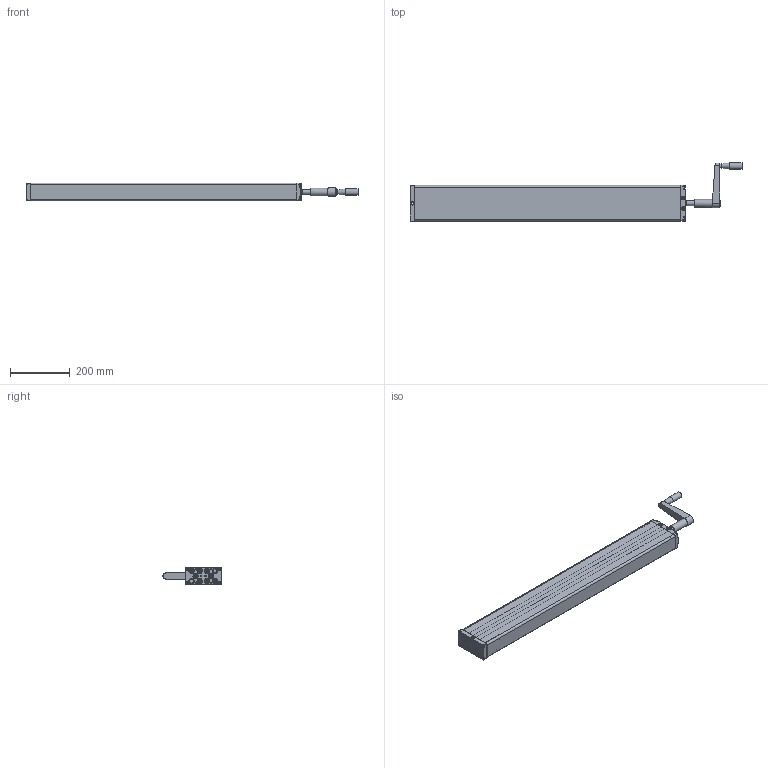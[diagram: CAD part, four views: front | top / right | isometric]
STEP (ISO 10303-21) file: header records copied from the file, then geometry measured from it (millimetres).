
FILE_DESCRIPTION(/* description */ ('Unknown'),/* implementation_level */ '2;1');
FILE_NAME(/* name */ '312.20195 Pumpe PB 8440 W mit Handkurbel',/* time_stamp */ '2016-11-24T17:01:02+01:00',/* author */ ('Unknown'),/* organization */ ('Unknown'),/* preprocessor_version */ 'ST-DEVELOPER v16.7',/* originating_system */ 'DEX',/* authorisation */ $);
FILE_SCHEMA (('AUTOMOTIVE_DESIGN {1 0 10303 214 3 1 1}'));
Products named in the file (22): 102.00195; 115.10027; 125.00031; 115.00007; 142.00021; 125.00021; 113.00005; 128.00001; 125.00052; 126.00013; 125.00053; 127.00014; Handgriff; 142.00013; 125.00147; 115.00140; 126.00006; 122.00040; 119.00047; 126.00036; 142.00057; 142.00017
Assembly tree (36 placements, depth 3):
  102.00195
    115.10027  x8
      125.00031
      115.00007
      142.00021
      125.00021
    113.00005
      128.00001
      125.00052
      126.00013
      125.00053
      127.00014
      Handgriff
    142.00013  x8
    125.00147
    115.00140
      126.00006
      122.00040
    119.00047
    126.00036
    142.00057
    142.00017  x2
Bounding box: 1113.75 x 195.5 x 60.3 mm (x, y, z)
Volume: 1232956.2 mm3; surface area: 814820.2 mm2
Topology: 46 solids, 46 shells, 2177 faces, 4972 edges, 2915 vertices
Faces by surface type: plane 775, cylinder 502, bspline 380, cone 360, torus 102, sphere 58
Full cylindrical faces by diameter (mm): 3.5 x8, 4 x2, 4.1 x8, 4.134 x4, 4.2 x9, 4.917 x4, 5 x8, 5.8 x4, 6 x2, 6.8 x1, 6.917 x16, 8 x18, 9 x8, 9.8 x8, 10 x6, 10.4 x1, 10.5 x4, 12.5 x8, 12.8 x1, 13 x27, 13.9 x16, 14 x1, 16 x2, 17 x1, 18 x11, 19 x1, 20.6 x1, 21 x1, 22 x1, 25.5 x1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
Entity records: 63563 total; most frequent: CARTESIAN_POINT 30444, ORIENTED_EDGE 5318, DIRECTION 4749, EDGE_CURVE 2659, AXIS2_PLACEMENT_3D 1850, VERTEX_POINT 1690, FACE_BOUND 1519, EDGE_LOOP 1516
